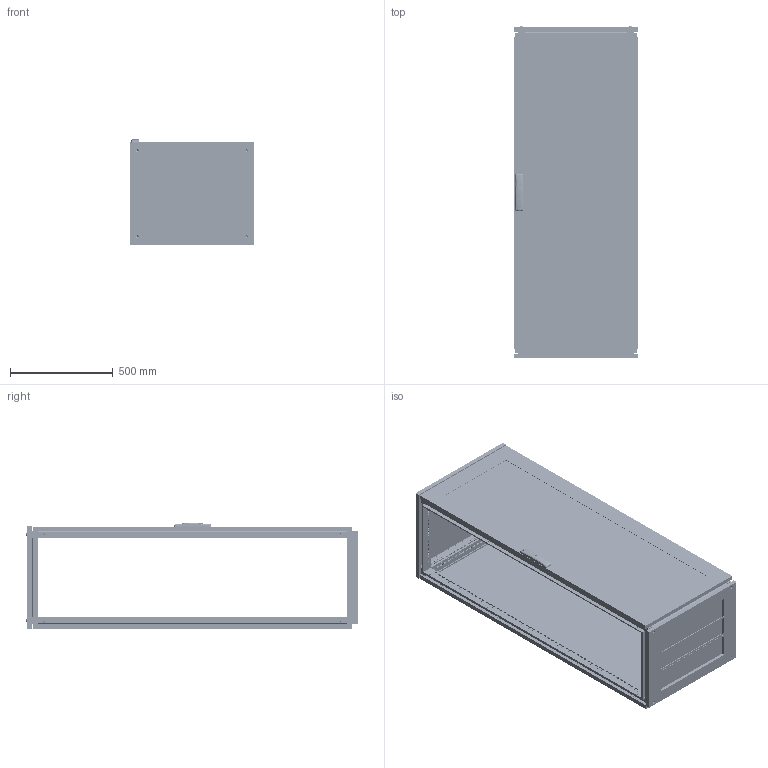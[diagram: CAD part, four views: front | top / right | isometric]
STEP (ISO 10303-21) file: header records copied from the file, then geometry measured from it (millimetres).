
FILE_DESCRIPTION (( 'STEP AP203' ), '1' );
FILE_NAME ('R5CQEN1665AX.STEP', '2025-05-07T11:33:42', ( '' ), ( '' ), 'SwSTEP 2.0', 'SolidWorks 2022', '' );
FILE_SCHEMA (( 'CONFIG_CONTROL_DESIGN' ));
Length unit declared in the file: millimetre
Products named in the file (65): RB.2456.00.00.0 simple_-01; M12x16 ISO 7380-1 HX cl.4,8 Zinc_straight; RB.2968.00.00.0 simple; RB.2969.00.00.0 СБ simple; RB.1633.00.02.0 simple_-01; M8x12 AC00C476 cl.8,8 Zinc_stright; M6 DIN 985 cl.6,0 Zinc_straight; RB.2680.00.00.0 СБ simple; RB.0562.01.00.0 СБ simple_-09; RB.0528.04.00.0 СБ simple; RB.2696.00.00.0 simple; RB.2685.00.00.0 simple_-01; RB.1957.00.00.0 simple_-05; RB.2499.01.00.0 СБ simple_-12; PF 7,5x15 CPE simple_1600x0600; RB.2357.00.00.0 simple_-03; PF 7x14 CRE simple_1600x0600; AC00C446-R; RB.2052.00.00.0 СБ simple_-11; М6х12 A5100231_straight; M6x15 Erickson cl.4,8 Zinc; RB.0562.01.01.0 simple_-09; M6x10 DIN 912 HX cl.8,8 Zinc_straight; 4.8x13 DIN 7981 PH Zinc_straight; R5NKTB - Assem simple_H=1600 R5NKTB65; Pin 4x16 DIN 7 AISI 303 (A1) simple; 7 DIN 6799 Zinc; TPA.08.0139.00.01.0 simple; M6x10 DIN 7500 M Torx cl.5.8 Zinc_straight; RB.0562.00.00.0 СБ simple_-09; RB.2172.00.00.1 simple; Square cap 20x20 simple; PF 5x10 KTB simple_600х500; R5NCRE-Assem simple_R5NCRE1660; RB.1867.01.01.0 simple_-39; RB.2755.00.00.0 СБ simple_-13; RB.2499.00.00.0 СБ simple_-13; Glue CPTE simple_1600x0600; RB.2052.01.00.0 СБ simple_-11; R5NKMN - Assem simple_R5NKMN16 (600х500)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
Assembly tree (173 placements, depth 5):
  R5CQEN1665AX
    R5NCPTE - Assem simple_R5NCPTE1660
      RB.0562.00.00.0 СБ simple_-09
        RB.0562.01.00.0 СБ simple_-09
          RB.0562.01.01.0 simple_-09
          М6х12 A5100231_straight  x7
          RB.2702.00.00.0 simple  x4
          PF 7,5x15 CPE simple_1600x0600
          Glass CPTE_1600x0600
          Glue CPTE simple_1600x0600
        Square cap 20x20 simple  x2
        M6x15 Erickson cl.4,8 Zinc  x2
        RB.0528.00.01.0 simple_-03  x2
        ATOS Traction guide ILY03.35  x4
        RB.2357.00.00.0 simple_-03
        RB.2680.00.00.0 СБ simple
          TPA.08.0139.00.01.0 simple
          RB.2680.00.01.0 simple
          RB.2680.00.02.0 simple  x2
        TPA.08.0139.00.03.0  x2
        M6 DIN 985 cl.6,0 Zinc_straight  x4
        4,0x16 F Torx Zinc (ART 88200)_thread  x2
        RB.0528.04.00.0 СБ simple  x2
          RB.0528.04.01.0 simple
          Pressing stud FH-M6-12_M6x12mm
      M6x10 DIN 912 HX cl.8,8 Zinc_straight  x8
      4.8x13 DIN 7981 PH Zinc_straight
      7 DIN 6799 Zinc simple  x4
      RB.2968.00.00.0 simple  x4
      RB.2969.00.00.0 СБ simple  x4
        RB.2969.00.01.0 simple
        Pin 4x16 DIN 7 AISI 303 (A1) simple
        M6 MGR-MKO-0625 simple_Thread
      AC00C446-R
      RB.2696.00.00.0 simple  x4
      7 DIN 6799 Zinc  x4
    R5NCRE-Assem simple_R5NCRE1660
      RB.2052.00.00.0 СБ simple_-11
        RB.2052.01.00.0 СБ simple_-11
          RB.0054.01.01.0 simple_-11
          М6х12 A5100231_straight  x4
        PF 7x14 CRE simple_1600x0600
      RB.2172.00.00.1 simple  x8
      M6x10 DIN 7500 E HX cl.5.8 Zinc_straight  x8
      M6x10 DIN 7500 M Torx cl.5.8 Zinc_straight  x8
    R5NKMN - Assem simple_R5NKMN16 (600х500)
      RB.2528.00.00.0 simple_-03  x4
    R5NKTB - Assem simple_H=1600 R5NKTB65
      RB.2499.00.00.0 СБ simple_-13
        RB.2499.01.00.0 СБ simple_-12
          RB.1633.00.01.0 simple_-02  x2
          RB.1633.00.02.0 simple_-01  x2
          PF 5x10 KTB simple_600х500
        RB.2457.00.00.0 СБ simple_-13
          RB.2455.00.00.0 simple_-02  x2
          RB.2456.00.00.0 simple_-01  x2
          TPA.08.0084.00.00.0 simple  x2
          TPA.08.0083.00.00.0 simple  x2
          M8x12 AC00C476 cl.8,8 Zinc_stright  x4
        RB.1957.00.00.0 simple_-05  x3
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Bounding box: 600 x 1613.3 x 514.74 mm (x, y, z)
Volume: 12368485.2 mm3; surface area: 10795351.3 mm2
Topology: 176 solids, 192 shells, 19853 faces, 55983 edges, 36803 vertices
Faces by surface type: plane 11227, cylinder 7085, cone 704, bspline 435, torus 368, sphere 34
Entity records: 201181 total; most frequent: CARTESIAN_POINT 51339, ORIENTED_EDGE 29546, DIRECTION 27999, EDGE_CURVE 14799, VERTEX_POINT 9786, AXIS2_PLACEMENT_3D 9389, VECTOR 9221, LINE 9221
